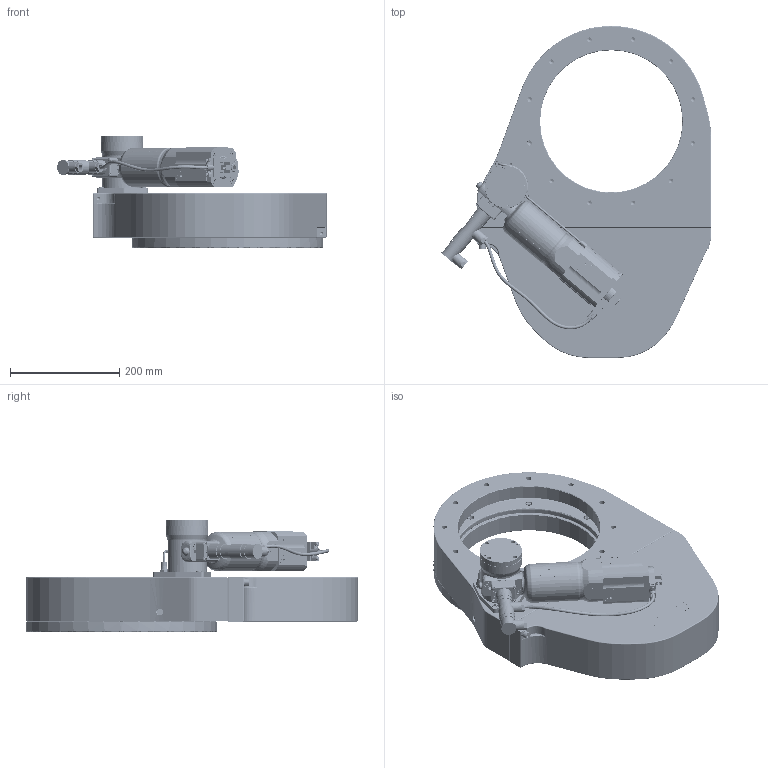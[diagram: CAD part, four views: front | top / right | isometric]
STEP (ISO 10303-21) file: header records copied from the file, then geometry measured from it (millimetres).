
FILE_DESCRIPTION(/* description */ (''),/* implementation_level */ '2;1');
FILE_NAME(/* name */ '1618621240_203.stp',/* time_stamp */ '2011-04-05T14:18:36+02:00',/* author */ (''),/* organization */ (''),/* preprocessor_version */ 'ST-DEVELOPER v11',/* originating_system */ 'SIEMENS UGS NX 6.0',/* authorisation */ '');
FILE_SCHEMA (('CONFIG_CONTROL_DESIGN'));
Length unit declared in the file: millimetre
Products named in the file (71): N-8406-013_3.2; N-8406-013_2.1; 73662-01.1; 202839_1.2; N-6121-039.1; N-6099-417.1; 75429-01_15678ID; 69252-01_15681ID; 69252-01_15680ID; 82555-01; N-8210-239; 82610-01; N-8406-007; N-8406-551; N-6030-011; 69672-01; N-8406-006_1; 77379-01.1; T-9001-055.1; N-6016-478.2; 69846-01; n-6024-531; N-8504-005.2; 250743; N-6091-462.1; N-7607-350.2; N-6072-439.1; N-5002-497.1; N-6195-413.1; 232959.1; 245276.2; N-6121-017.2; N-6005-439_1.1; N-7607-023.1; N-6071-446.1; 245471.2; 218188.1; 245282.6; 242118.14; 242111.11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
Assembly tree (127 placements, depth 6):
  249953
    246542.6
      N-6091-494.1  x2
      246543.8
      n-7636-200.2
    246246
    228777  x24
    247548.4
    310931.1
    314007.1  x2
    n-6134-409.1  x2
    310782.2_NX-ARRAGMNTEXPLOSIONE
      222717.1  x2
      265356.2
      265557.2
      245266.7
      244112.1  x2
      244151.3
      242117.8
      310619.1
      310276.1
      246211.3
      229712.2
      247374.3
      242111.11
      242118.14
      245282.6
      218188.1  x3
      245471.2
      N-6071-446.1
      N-7607-023.1
      N-6005-439_1.1  x8
      N-6121-017.2  x4
      245276.2
      232959.1  x4
      N-6195-413.1
      N-5002-497.1
      N-6072-439.1
      N-7607-350.2
      N-6091-462.1
      250743
    400460_MODEL
      310926.1
        N-8504-005.2
        71852-r1
          N-8406-006_1
          69672-01
          N-6030-011  x4
          N-8406-551  x2
          N-8406-007
          82610-01
          N-8210-239  x4
          82555-01
        n-6024-531  x4
        69428-r1_MODEL
          69252-01_15680ID
          69252-01_15681ID
          75429-01_15678ID
        69846-01
      78855-R1.9_NX-ARRAGMNTEXPLOSION
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Bounding box: 495.21 x 609 x 205 mm (x, y, z)
Volume: 7500351.6 mm3; surface area: 1509620.6 mm2
Topology: 208 solids, 208 shells, 4863 faces, 11646 edges, 7483 vertices
Faces by surface type: plane 2487, cylinder 1301, cone 407, bspline 363, torus 146, extrusion 131, sphere 26, revolution 2
Full cylindrical faces by diameter (mm): 0.5 x2, 1 x9, 1.2 x10, 1.4 x2, 1.5 x13, 1.6 x6, 1.95 x4, 2 x5, 2.115 x4, 2.2 x4, 2.25 x4, 2.3 x5, 2.5 x31, 2.7 x4, 2.8 x5, 2.856 x4, 3 x21, 3.2 x6, 3.26 x9, 3.3 x17, 3.4 x4, 3.5 x9, 3.9 x4, 4 x39, 4.025 x1, 4.054 x1, 4.16 x7, 4.2 x16, 4.5 x8, 4.96 x3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
Entity records: 139210 total; most frequent: CARTESIAN_POINT 41502, DIRECTION 17637, ORIENTED_EDGE 17054, EDGE_CURVE 8527, AXIS2_PLACEMENT_3D 6855, VERTEX_POINT 6262, EDGE_LOOP 5762, ADVANCED_FACE 3957
